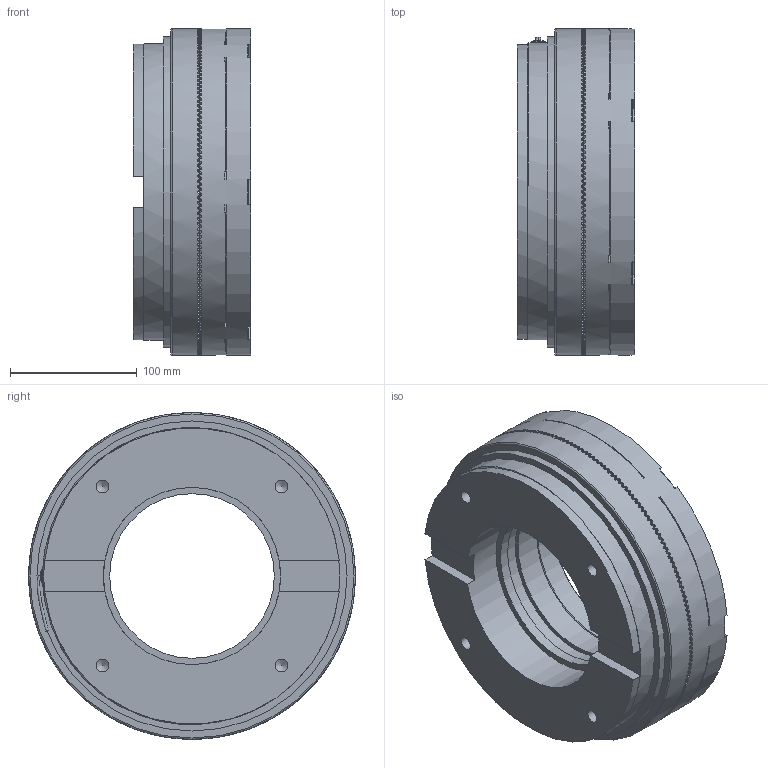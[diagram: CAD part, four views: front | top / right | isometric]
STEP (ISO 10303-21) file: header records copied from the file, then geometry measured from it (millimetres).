
FILE_DESCRIPTION(/* description */ (''),/* implementation_level */ '2;1');
FILE_NAME(/* name */ 'X:\INVENTOR\DISEGNI\07_Innesti_Elettmag_a_Dentini\07_09 EBLF_Z\07_09_260_01 EBLF260_Z\07_09_260_01 EBLF260_Z@STEP.stp',/* time_stamp */ '2016-11-28T11:22:23+01:00',/* author */ ('stefano'),/* organization */ (''),/* preprocessor_version */ 'ST-DEVELOPER v16.1',/* originating_system */ 'Autodesk Inventor 2016',/* authorisation */ '');
FILE_SCHEMA (('CONFIG_CONTROL_DESIGN'));
Products named in the file (1): 07_09_260_01 EBLF260_Z_Substitute_1
Bounding box: 92.5 x 258 x 258 mm (x, y, z)
Volume: 2855052.1 mm3; surface area: 353184.9 mm2
Topology: 3 solids, 3 shells, 1868 faces, 5446 edges, 3611 vertices
Faces by surface type: plane 1742, cylinder 93, cone 27, bspline 3, torus 3
Full cylindrical faces by diameter (mm): 4 x1, 4.917 x6, 7.9 x6, 8.5 x6, 9 x1, 10.106 x4, 11 x1, 12 x6, 13 x6, 130 x3, 133 x1, 140 x1, 173 x2, 205 x2, 232 x1, 234.615 x1, 240 x1, 242 x2, 245 x1, 258 x2
Entity records: 65599 total; most frequent: DIRECTION 12331, CARTESIAN_POINT 11551, ORIENTED_EDGE 10708, EDGE_CURVE 5349, AXIS2_PLACEMENT_3D 5190, VERTEX_POINT 3586, ELLIPSE 2304, EDGE_LOOP 1987
